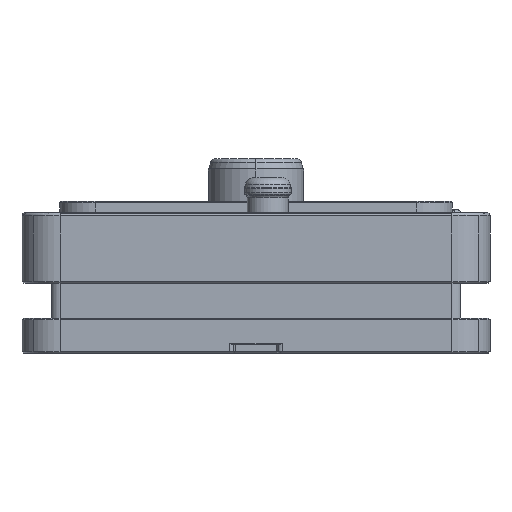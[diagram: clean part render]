
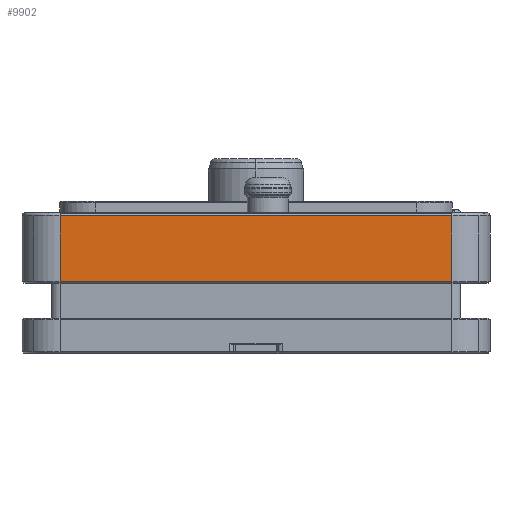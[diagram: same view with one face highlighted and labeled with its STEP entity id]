
A CAD part, left-side view. The second image highlights one B-rep face of the part: STEP entity #9902.
In plain terms, the highlighted planar face has unit normal (-1, 0, 0).
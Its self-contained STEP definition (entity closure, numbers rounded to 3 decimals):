
#264 = LINE ( 'NONE', #6192, #6384 ) ;
#632 = DIRECTION ( 'NONE',  ( 0., 0., 1. ) ) ;
#707 = LINE ( 'NONE', #4295, #10361 ) ;
#741 = VECTOR ( 'NONE', #11639, 1000. ) ;
#1509 = EDGE_CURVE ( 'NONE', #14968, #11050, #264, .T. ) ;
#1859 = ORIENTED_EDGE ( 'NONE', *, *, #9802, .F. ) ;
#2223 = EDGE_CURVE ( 'NONE', #11050, #5276, #14054, .T. ) ;
#3173 = EDGE_CURVE ( 'NONE', #5276, #8639, #707, .T. ) ;
#3374 = CARTESIAN_POINT ( 'NONE',  ( -120., 67., 24.5 ) ) ;
#4295 = CARTESIAN_POINT ( 'NONE',  ( -120., 40., 47. ) ) ;
#4395 = ORIENTED_EDGE ( 'NONE', *, *, #3173, .F. ) ;
#5171 = EDGE_LOOP ( 'NONE', ( #4395, #7294, #14343, #1859 ) ) ;
#5276 = VERTEX_POINT ( 'NONE', #7348 ) ;
#5472 = DIRECTION ( 'NONE',  ( 0., -1., 0. ) ) ;
#5857 = CARTESIAN_POINT ( 'NONE',  ( -120., 67., 0. ) ) ;
#6192 = CARTESIAN_POINT ( 'NONE',  ( -120., 40., 24.5 ) ) ;
#6384 = VECTOR ( 'NONE', #10974, 1000. ) ;
#6706 = CARTESIAN_POINT ( 'NONE',  ( -120., -67., 0. ) ) ;
#7294 = ORIENTED_EDGE ( 'NONE', *, *, #2223, .F. ) ;
#7348 = CARTESIAN_POINT ( 'NONE',  ( -120., 67., 47. ) ) ;
#7557 = VECTOR ( 'NONE', #15377, 1000. ) ;
#7954 = PLANE ( 'NONE',  #10481 ) ;
#8639 = VERTEX_POINT ( 'NONE', #14910 ) ;
#9052 = DIRECTION ( 'NONE',  ( -1., 0., 0. ) ) ;
#9802 = EDGE_CURVE ( 'NONE', #8639, #14968, #12804, .T. ) ;
#9902 = ADVANCED_FACE ( 'NONE', ( #10223 ), #7954, .T. ) ;
#10223 = FACE_OUTER_BOUND ( 'NONE', #5171, .T. ) ;
#10361 = VECTOR ( 'NONE', #5472, 1000. ) ;
#10481 = AXIS2_PLACEMENT_3D ( 'NONE', #11349, #9052, #632 ) ;
#10971 = CARTESIAN_POINT ( 'NONE',  ( -120., -67., 24.5 ) ) ;
#10974 = DIRECTION ( 'NONE',  ( 0., 1., 0. ) ) ;
#11050 = VERTEX_POINT ( 'NONE', #3374 ) ;
#11349 = CARTESIAN_POINT ( 'NONE',  ( -120., 80., 0. ) ) ;
#11639 = DIRECTION ( 'NONE',  ( 0., 0., -1. ) ) ;
#12804 = LINE ( 'NONE', #6706, #741 ) ;
#14054 = LINE ( 'NONE', #5857, #7557 ) ;
#14343 = ORIENTED_EDGE ( 'NONE', *, *, #1509, .F. ) ;
#14910 = CARTESIAN_POINT ( 'NONE',  ( -120., -67., 47. ) ) ;
#14968 = VERTEX_POINT ( 'NONE', #10971 ) ;
#15377 = DIRECTION ( 'NONE',  ( 0., 0., 1. ) ) ;
